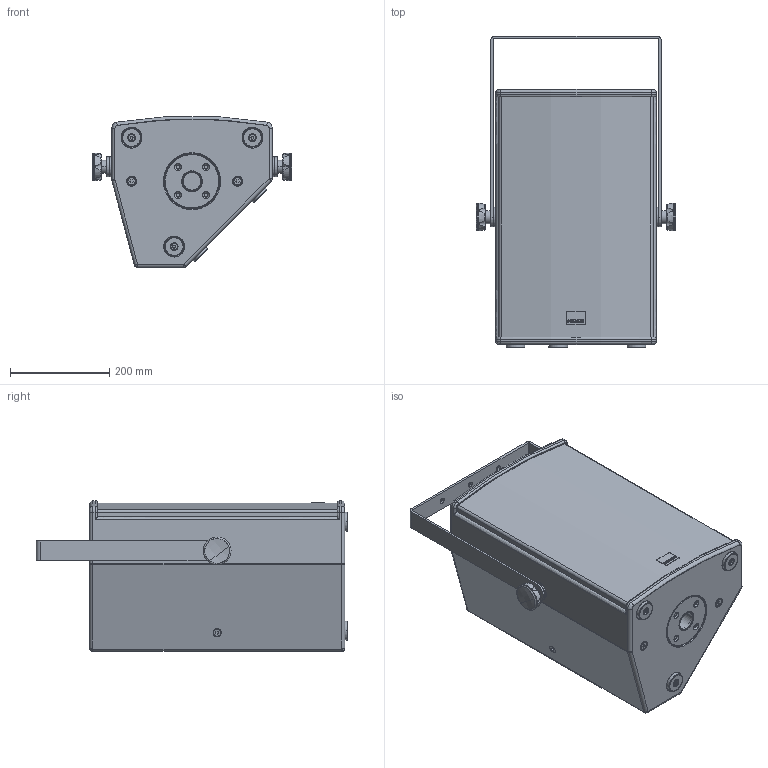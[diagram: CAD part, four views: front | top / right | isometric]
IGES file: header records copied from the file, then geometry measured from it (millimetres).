
Start section: SolidWorks IGES file using analytic representation for surfaces
Global section: file name: C:\Dokumente und Einstellungen\PC_Fabian\Desktop\3d_Dateien_Homepage\A-Serie\SEEBURG_A4_Bracket-ver.IGS; native system: SolidWorks 2009; preprocessor: SolidWorks 2009; author: PC_Fabian; date: 120928.084836; units: millimetre
Bounding box: 402 x 628.5 x 304.58 mm (x, y, z)
Surface area: 1881311.3 mm2 (no closed solid volume)
Topology: 0 solids, 0 shells, 838 faces, 12511 edges, 12509 vertices
Faces by surface type: revolution 441, bspline 397
